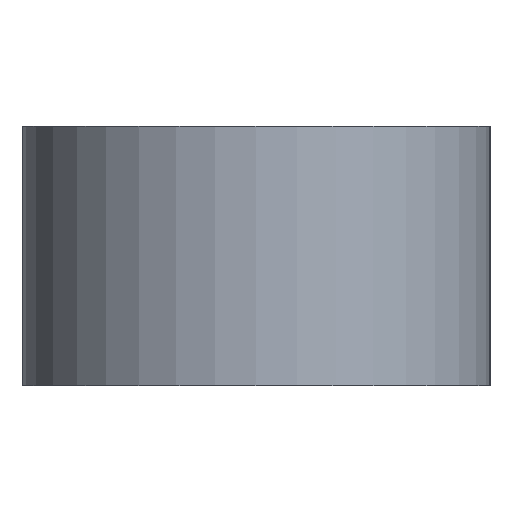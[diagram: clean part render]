
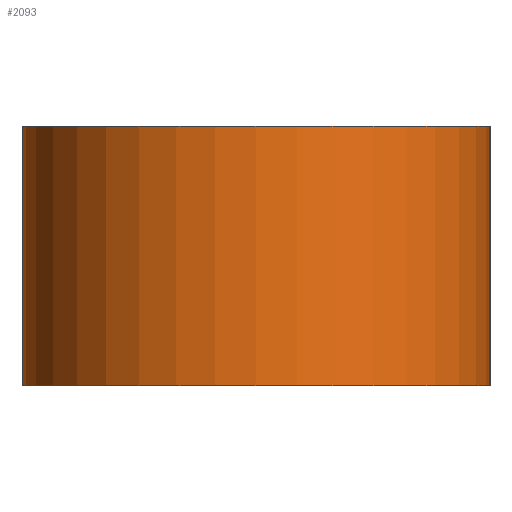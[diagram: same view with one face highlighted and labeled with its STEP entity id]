
A CAD part, left-side view. The second image highlights one B-rep face of the part: STEP entity #2093.
In plain terms, the highlighted cylindrical face has radius 3.6 mm (diameter 7.2 mm), a partial arc.
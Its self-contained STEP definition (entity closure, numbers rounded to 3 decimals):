
#178=LINE('',#3671,#306);
#179=LINE('',#3672,#307);
#306=VECTOR('',#3037,1000.);
#307=VECTOR('',#3038,1000.);
#782=ORIENTED_EDGE('',*,*,#1157,.F.);
#783=ORIENTED_EDGE('',*,*,#1158,.F.);
#784=ORIENTED_EDGE('',*,*,#1114,.T.);
#785=ORIENTED_EDGE('',*,*,#1159,.T.);
#1114=EDGE_CURVE('',#1330,#1331,#1498,.T.);
#1157=EDGE_CURVE('',#1373,#1374,#1537,.T.);
#1158=EDGE_CURVE('',#1330,#1373,#178,.T.);
#1159=EDGE_CURVE('',#1331,#1374,#179,.T.);
#1330=VERTEX_POINT('',#3557);
#1331=VERTEX_POINT('',#3558);
#1373=VERTEX_POINT('',#3669);
#1374=VERTEX_POINT('',#3670);
#1498=CIRCLE('',#2315,3.6);
#1537=CIRCLE('',#2380,3.6);
#1693=EDGE_LOOP('',(#782,#783,#784,#785));
#1871=FACE_BOUND('',#1693,.T.);
#1975=CYLINDRICAL_SURFACE('',#2379,3.6);
#2093=ADVANCED_FACE('',(#1871),#1975,.T.);
#2315=AXIS2_PLACEMENT_3D('',#3556,#2901,#2902);
#2379=AXIS2_PLACEMENT_3D('',#3667,#3033,#3034);
#2380=AXIS2_PLACEMENT_3D('',#3668,#3035,#3036);
#2901=DIRECTION('',(0.,0.,-1.));
#2902=DIRECTION('',(1.,0.,0.));
#3033=DIRECTION('',(0.,0.,-1.));
#3034=DIRECTION('',(-1.,0.,0.));
#3035=DIRECTION('',(0.,0.,-1.));
#3036=DIRECTION('',(1.,0.,0.));
#3037=DIRECTION('',(0.,0.,-1.));
#3038=DIRECTION('',(0.,0.,-1.));
#3556=CARTESIAN_POINT('',(-20.,0.,4.));
#3557=CARTESIAN_POINT('',(-20.,-3.6,4.));
#3558=CARTESIAN_POINT('',(-20.,3.6,4.));
#3667=CARTESIAN_POINT('',(-20.,0.,4.));
#3668=CARTESIAN_POINT('',(-20.,0.,0.));
#3669=CARTESIAN_POINT('',(-20.,-3.6,0.));
#3670=CARTESIAN_POINT('',(-20.,3.6,0.));
#3671=CARTESIAN_POINT('',(-20.,-3.6,4.));
#3672=CARTESIAN_POINT('',(-20.,3.6,4.));
